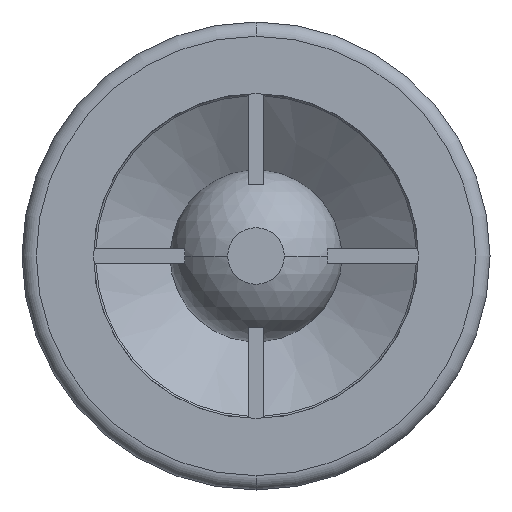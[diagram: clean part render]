
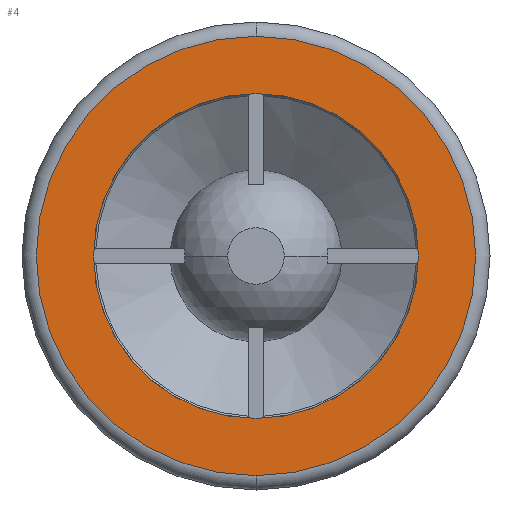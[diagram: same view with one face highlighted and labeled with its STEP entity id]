
A CAD part, front view. The second image highlights one B-rep face of the part: STEP entity #4.
In plain terms, the highlighted planar face has unit normal (0, -1, 0).
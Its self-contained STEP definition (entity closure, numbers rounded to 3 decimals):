
#3 = EDGE_LOOP ( 'NONE', ( #32, #30 ) ) ;
#4 = ADVANCED_FACE ( 'NONE', ( #908, #907 ), #906, .F. ) ;
#18 = ORIENTED_EDGE ( 'NONE', *, *, #43, .F. ) ;
#23 = ORIENTED_EDGE ( 'NONE', *, *, #734, .F. ) ;
#24 = EDGE_LOOP ( 'NONE', ( #23, #18 ) ) ;
#30 = ORIENTED_EDGE ( 'NONE', *, *, #867, .T. ) ;
#31 = EDGE_CURVE ( 'NONE', #659, #657, #938, .T. ) ;
#32 = ORIENTED_EDGE ( 'NONE', *, *, #31, .T. ) ;
#43 = EDGE_CURVE ( 'NONE', #516, #493, #975, .T. ) ;
#493 = VERTEX_POINT ( 'NONE', #1689 ) ;
#516 = VERTEX_POINT ( 'NONE', #1707 ) ;
#657 = VERTEX_POINT ( 'NONE', #1994 ) ;
#659 = VERTEX_POINT ( 'NONE', #1988 ) ;
#734 = EDGE_CURVE ( 'NONE', #493, #516, #2184, .T. ) ;
#867 = EDGE_CURVE ( 'NONE', #657, #659, #2429, .T. ) ;
#902 = DIRECTION ( 'NONE',  ( 0., 0., 1. ) ) ;
#903 = DIRECTION ( 'NONE',  ( 0., 1., 0. ) ) ;
#904 = CARTESIAN_POINT ( 'NONE',  ( -17., 0., 0. ) ) ;
#905 = AXIS2_PLACEMENT_3D ( 'NONE', #904, #903, #902 ) ;
#906 = PLANE ( 'NONE',  #905 ) ;
#907 = FACE_BOUND ( 'NONE', #24, .T. ) ;
#908 = FACE_OUTER_BOUND ( 'NONE', #3, .T. ) ;
#931 = DIRECTION ( 'NONE',  ( 0., 0., 1. ) ) ;
#932 = DIRECTION ( 'NONE',  ( 0., -1., 0. ) ) ;
#933 = CARTESIAN_POINT ( 'NONE',  ( 0., 0., 0. ) ) ;
#934 = AXIS2_PLACEMENT_3D ( 'NONE', #933, #932, #931 ) ;
#938 = CIRCLE ( 'NONE', #934, 23. ) ;
#971 = DIRECTION ( 'NONE',  ( 0., 0., -1. ) ) ;
#972 = DIRECTION ( 'NONE',  ( 0., -1., 0. ) ) ;
#973 = CARTESIAN_POINT ( 'NONE',  ( 0., 0., 0. ) ) ;
#974 = AXIS2_PLACEMENT_3D ( 'NONE', #973, #972, #971 ) ;
#975 = CIRCLE ( 'NONE', #974, 17. ) ;
#1689 = CARTESIAN_POINT ( 'NONE',  ( 0., 0., -17. ) ) ;
#1707 = CARTESIAN_POINT ( 'NONE',  ( 0., 0., 17. ) ) ;
#1988 = CARTESIAN_POINT ( 'NONE',  ( 0., 0., 23. ) ) ;
#1994 = CARTESIAN_POINT ( 'NONE',  ( 0., 0., -23. ) ) ;
#2180 = DIRECTION ( 'NONE',  ( 0., 0., -1. ) ) ;
#2181 = DIRECTION ( 'NONE',  ( 0., -1., 0. ) ) ;
#2182 = CARTESIAN_POINT ( 'NONE',  ( 0., 0., 0. ) ) ;
#2183 = AXIS2_PLACEMENT_3D ( 'NONE', #2182, #2181, #2180 ) ;
#2184 = CIRCLE ( 'NONE', #2183, 17. ) ;
#2425 = DIRECTION ( 'NONE',  ( 0., 0., 1. ) ) ;
#2426 = DIRECTION ( 'NONE',  ( 0., -1., 0. ) ) ;
#2427 = CARTESIAN_POINT ( 'NONE',  ( 0., 0., 0. ) ) ;
#2428 = AXIS2_PLACEMENT_3D ( 'NONE', #2427, #2426, #2425 ) ;
#2429 = CIRCLE ( 'NONE', #2428, 23. ) ;
